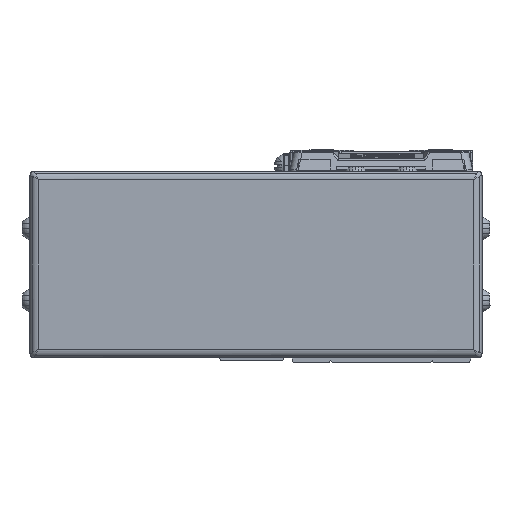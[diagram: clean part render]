
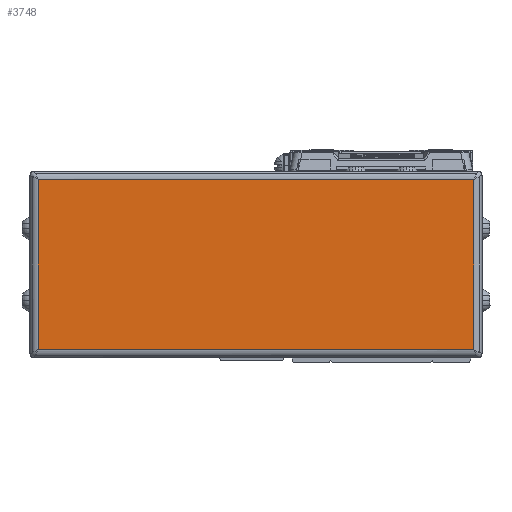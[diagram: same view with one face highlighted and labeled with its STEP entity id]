
A CAD part, left-side view. The second image highlights one B-rep face of the part: STEP entity #3748.
In plain terms, the highlighted planar face has unit normal (-1, 0, 0).
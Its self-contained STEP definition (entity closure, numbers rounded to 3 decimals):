
#3748=ADVANCED_FACE('',(#9194),#9195,.F.);
#9194=FACE_OUTER_BOUND('',#17401,.T.);
#9195=PLANE('',#17402);
#17401=EDGE_LOOP('',(#30450,#30451,#30452,#30453));
#17402=AXIS2_PLACEMENT_3D('',#30454,#30455,#30456);
#30450=ORIENTED_EDGE('',*,*,#49804,.T.);
#30451=ORIENTED_EDGE('',*,*,#46865,.T.);
#30452=ORIENTED_EDGE('',*,*,#49805,.T.);
#30453=ORIENTED_EDGE('',*,*,#47816,.T.);
#30454=CARTESIAN_POINT('',(-48.,29.5,-4.));
#30455=DIRECTION('',(1.0,0.,0.));
#30456=DIRECTION('',(0.,0.,1.0));
#46865=EDGE_CURVE('',#55216,#55214,#55217,.T.);
#47816=EDGE_CURVE('',#56904,#56902,#56905,.T.);
#49804=EDGE_CURVE('',#56902,#55216,#60295,.T.);
#49805=EDGE_CURVE('',#55214,#56904,#60296,.T.);
#55214=VERTEX_POINT('',#67427);
#55216=VERTEX_POINT('',#67429);
#55217=LINE('',#67430,#67431);
#56902=VERTEX_POINT('',#69706);
#56904=VERTEX_POINT('',#69708);
#56905=LINE('',#69709,#69710);
#60295=LINE('',#74654,#74655);
#60296=LINE('',#74656,#74657);
#67427=CARTESIAN_POINT('',(-48.,80.7,-24.));
#67429=CARTESIAN_POINT('',(-48.,80.7,16.));
#67430=CARTESIAN_POINT('',(-48.,80.7,-4.));
#67431=VECTOR('',#84839,10.0);
#69706=CARTESIAN_POINT('',(-48.,-21.7,16.));
#69708=CARTESIAN_POINT('',(-48.,-21.7,-24.));
#69709=CARTESIAN_POINT('',(-48.,-21.7,-4.));
#69710=VECTOR('',#86121,10.0);
#74654=CARTESIAN_POINT('',(-48.,29.5,16.));
#74655=VECTOR('',#88887,10.0);
#74656=CARTESIAN_POINT('',(-48.,29.5,-24.));
#74657=VECTOR('',#88888,10.0);
#84839=DIRECTION('',(0.,0.,-1.0));
#86121=DIRECTION('',(0.,0.,1.0));
#88887=DIRECTION('',(0.,1.0,0.));
#88888=DIRECTION('',(0.,-1.0,0.));
